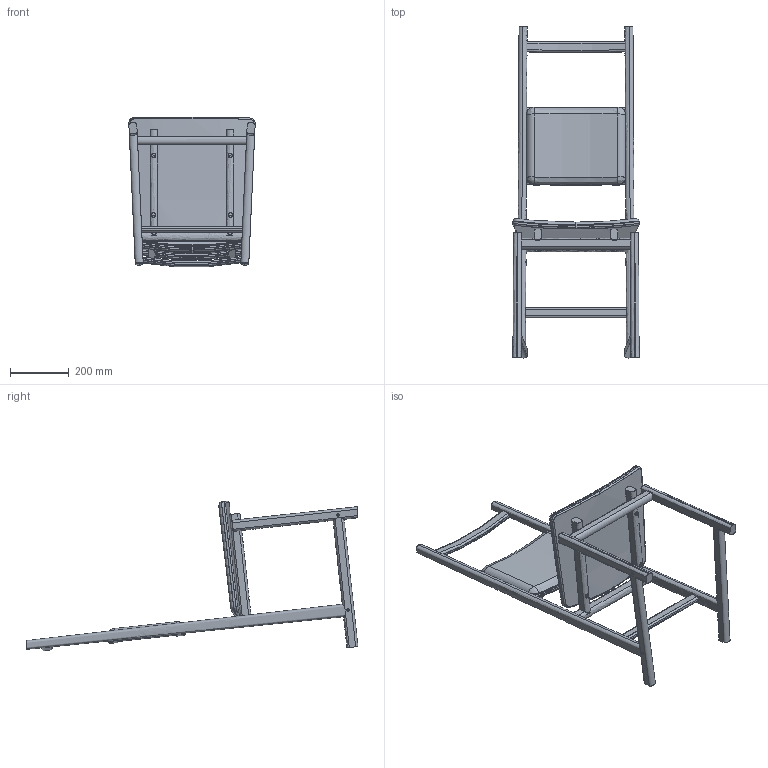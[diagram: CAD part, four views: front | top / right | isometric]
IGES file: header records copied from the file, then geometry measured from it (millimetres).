
Start section: SolidWorks IGES file using analytic representation for surfaces
Global section: file name: C:\Users\Kuma\Desktop\763 Shaker Chair_vb_2016-04-08.IGS; native system: SolidWorks 2016; preprocessor: SolidWorks 2016; author: kuma; date: 160408.161932; units: millimetre
Bounding box: 429.87 x 1128.77 x 507.71 mm (x, y, z)
Surface area: 1372695.7 mm2 (no closed solid volume)
Topology: 0 solids, 0 shells, 165 faces, 3895 edges, 3895 vertices
Faces by surface type: bspline 130, revolution 35
